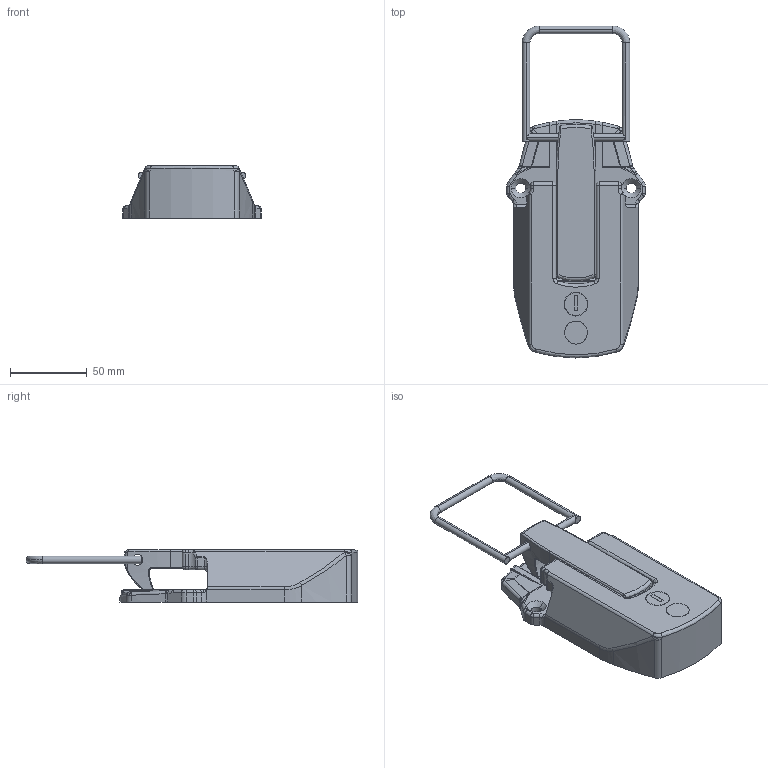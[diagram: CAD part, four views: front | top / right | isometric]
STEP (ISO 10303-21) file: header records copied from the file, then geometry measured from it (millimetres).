
FILE_DESCRIPTION (( 'STEP AP203' ), '1' );
FILE_NAME ('EL-602.STEP', '2013-12-26T07:40:25', ( 'SDS' ), ( 'SDS' ), 'SwSTEP 2.0', 'SolidWorks 2002296', '' );
FILE_SCHEMA (( 'CONFIG_CONTROL_DESIGN' ));
Length unit declared in the file: millimetre
Products named in the file (17): EL-602; EL-6027_蹬怮椔; EL-6028_蹬怮椔; EL-6029_蹬怮椔; EL-60210_蹬怮椔; EL-60211_蹬怮椔; EL-60212_蹬怮椔; EL-60213_蹬怮椔; EL-60214_蹬怮椔; EL-60215_蹬怮椔; EL-60216_蹬怮椔; EL-6021_蹬怮椔; EL-6022_蹬怮椔; EL-6023_蹬怮椔; EL-6024_蹬怮椔; EL-6025_蹬怮椔; EL-6026_蹬怮椔
Assembly tree (16 placements, depth 2):
  EL-602
    EL-6028_蹬怮椔
    EL-6027_蹬怮椔
    EL-60216_蹬怮椔
    EL-60212_蹬怮椔
    EL-6022_蹬怮椔
    EL-6029_蹬怮椔
    EL-60213_蹬怮椔
    EL-6025_蹬怮椔
    EL-60215_蹬怮椔
    EL-6023_蹬怮椔
    EL-6026_蹬怮椔
    EL-60210_蹬怮椔
    EL-6021_蹬怮椔
    EL-6024_蹬怮椔
    EL-60211_蹬怮椔
    EL-60214_蹬怮椔
Bounding box: 90 x 216 x 34 mm (x, y, z)
Volume: 100825.2 mm3; surface area: 77013.1 mm2
Topology: 15 solids, 18 shells, 1233 faces, 2991 edges, 1806 vertices
Faces by surface type: cylinder 511, plane 348, bspline 324, cone 50
Entity records: 56891 total; most frequent: CARTESIAN_POINT 28736, ORIENTED_EDGE 5944, DIRECTION 4968, EDGE_CURVE 2975, AXIS2_PLACEMENT_3D 1840, VERTEX_POINT 1806, EDGE_LOOP 1295, LINE 1288
